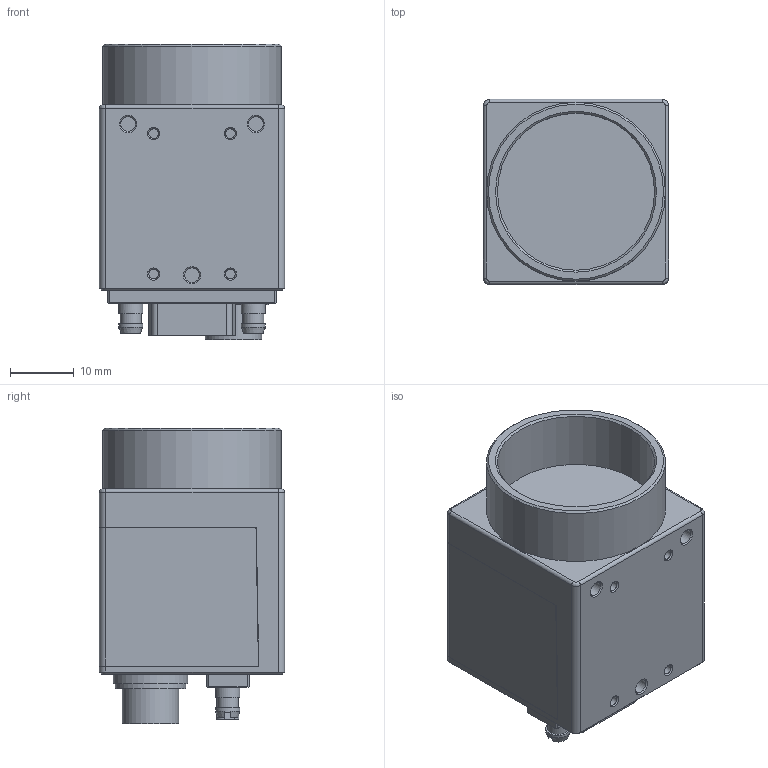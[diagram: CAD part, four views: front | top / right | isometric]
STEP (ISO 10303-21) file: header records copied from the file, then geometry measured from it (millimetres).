
FILE_DESCRIPTION((''),'2;1');
FILE_NAME('C:\Users\Dongwoo\Desktop\Suh\02. CREVIS\홈페이지(dw)\CameraLink\MC-D210B\cameralink_stp\mcl-series.stp','2016-02-18T11:30:30',('Dongwoo'),(''),'Autodesk Inventor 2013','Autodesk Inventor 2013','');
FILE_SCHEMA(('AUTOMOTIVE_DESIGN { 1 0 10303 214 1 1 1 1 }'));
Length unit declared in the file: millimetre
Products named in the file (1): mcl-series
Bounding box: 29 x 29 x 46.3 mm (x, y, z)
Volume: 26732.2 mm3; surface area: 10642.9 mm2
Topology: 1 solids, 1 shells, 203 faces, 485 edges, 306 vertices
Faces by surface type: plane 118, cylinder 62, cone 19, bspline 4
Full cylindrical faces by diameter (mm): 1.5 x4, 1.6 x2, 2 x4, 2.3 x3, 3.3 x2, 3.8 x4, 8.85 x1, 11 x1, 11.7 x1, 24.6 x1, 28 x1
Entity records: 5932 total; most frequent: CARTESIAN_POINT 1308, DIRECTION 992, ORIENTED_EDGE 880, EDGE_CURVE 440, AXIS2_PLACEMENT_3D 368, VERTEX_POINT 296, EDGE_LOOP 264, VECTOR 256
